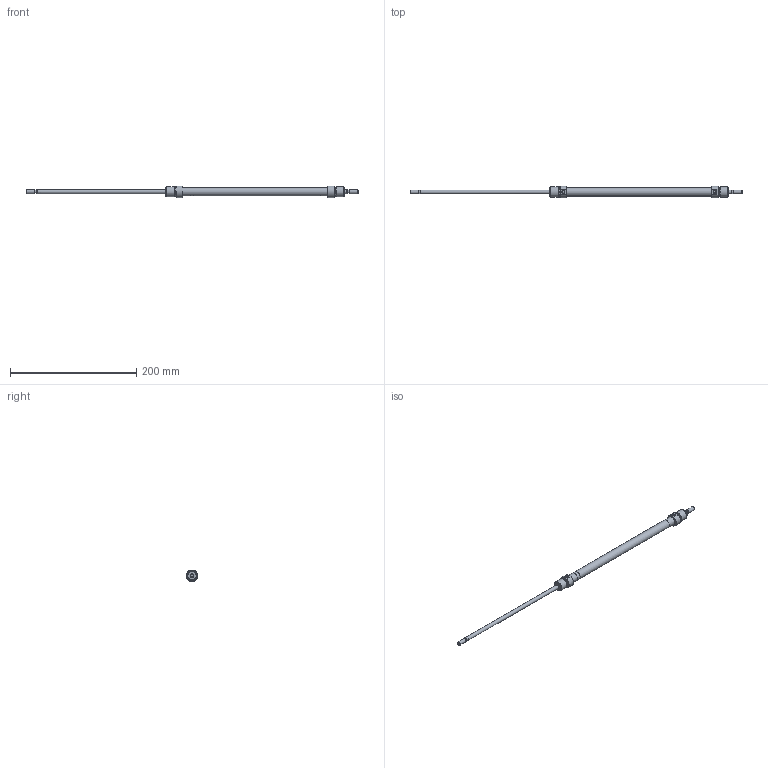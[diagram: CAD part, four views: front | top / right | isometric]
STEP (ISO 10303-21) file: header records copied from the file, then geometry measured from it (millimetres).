
FILE_DESCRIPTION( ( 'STEP AP203' ), '1' );
FILE_NAME( '//expscmdclustefs.cadenas.external/client_exchange/iodir/jobs/output/wkb68359298_no0/STEP/M101-012-0200--__0__2_03.stp', ' ', ( ' ' ), ( ' ' ), 'PSStep 15.0.47', 'PARTsolutions', ' ' );
FILE_SCHEMA( ( 'CONFIG_CONTROL_DESIGN' ) );
Length unit declared in the file: millimetre
Products named in the file (3): M101-012-0200-- [0]; HI_M101-012-0200---[0]-z; HI_M101-012-0200---[0]-k
Assembly tree (2 placements, depth 2):
  M101-012-0200-- [0]
    HI_M101-012-0200---[0]-z
    HI_M101-012-0200---[0]-k
Bounding box: 526 x 18.73 x 17.86 mm (x, y, z)
Volume: 33611.2 mm3; surface area: 33016 mm2
Topology: 2 solids, 2 shells, 65 faces, 129 edges, 80 vertices
Faces by surface type: plane 26, cylinder 23, cone 14, torus 2
Full cylindrical faces by diameter (mm): 4.134 x2, 4.773 x2, 6 x6, 12 x2, 13.3 x1, 14.16 x4, 16 x4
Entity records: 1670 total; most frequent: CARTESIAN_POINT 324, DIRECTION 280, ORIENTED_EDGE 184, AXIS2_PLACEMENT_3D 128, EDGE_LOOP 116, EDGE_CURVE 92, FACE_OUTER_BOUND 88, VERTEX_POINT 76
